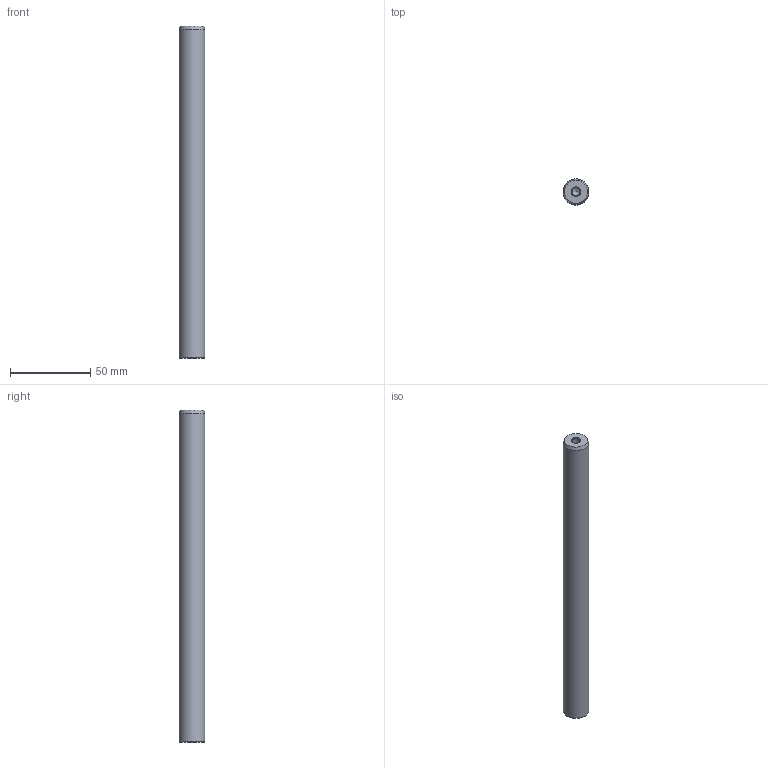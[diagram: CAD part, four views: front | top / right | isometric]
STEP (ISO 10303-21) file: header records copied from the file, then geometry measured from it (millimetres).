
FILE_DESCRIPTION( ( 'STEP AP214' ), '1' );
FILE_NAME( 'U:/Etudes/Top Solid/BIBLIO_Fournisseur/Colonnes UG/Ø16x207.step', '2004-12-22T12:36:58', ( ' ' ), ( ' ' ), 'XStep 1.0', ' ', ' ' );
FILE_SCHEMA( ( 'automotive_design' ) );
Length unit declared in the file: metre
Products named in the file (1): 1
Bounding box: 16 x 16 x 207 mm (x, y, z)
Volume: 40963.4 mm3; surface area: 11237 mm2
Topology: 1 solids, 1 shells, 13 faces, 27 edges, 16 vertices
Faces by surface type: cone 6, cylinder 5, plane 2
Full cylindrical faces by diameter (mm): 4.918 x4, 16 x1
Entity records: 382 total; most frequent: DIRECTION 52, CARTESIAN_POINT 40, AXIS2_PLACEMENT_3D 26, EDGE_LOOP 24, ORIENTED_EDGE 24, FACE_OUTER_BOUND 18, VERTEX_POINT 14, STYLED_ITEM 13
